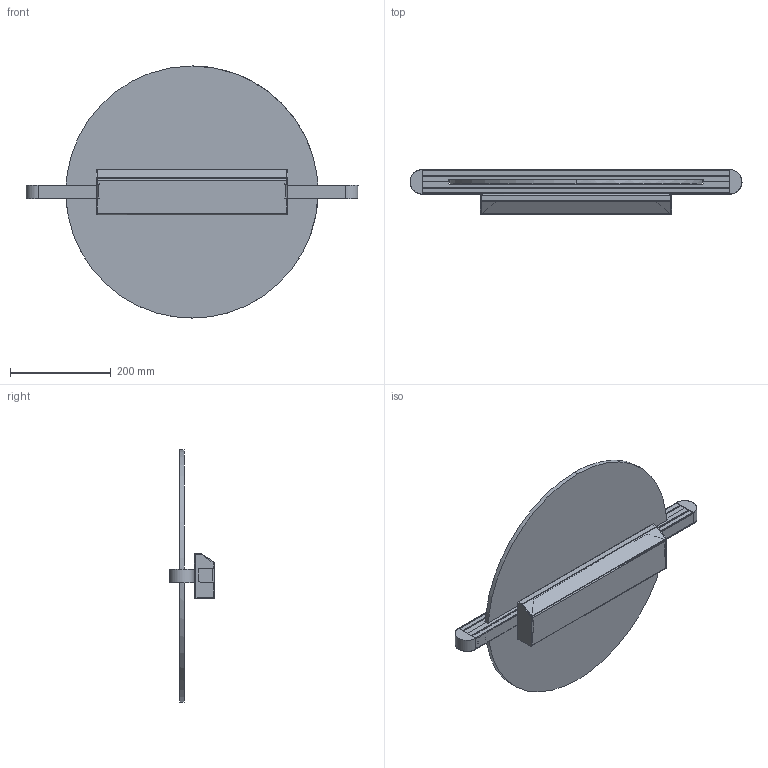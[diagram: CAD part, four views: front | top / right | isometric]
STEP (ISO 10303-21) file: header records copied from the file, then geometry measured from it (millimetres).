
FILE_DESCRIPTION(/* description */ (''),/* implementation_level */ '2;1');
FILE_NAME(/* name */ 'SE9292~1',/* time_stamp */ '2021-06-09T16:47:19+02:00',/* author */ (''),/* organization */ (''),/* preprocessor_version */ 'ST-DEVELOPER v16.5',/* originating_system */ '',/* authorisation */ '');
FILE_SCHEMA (('CONFIG_CONTROL_DESIGN'));
Length unit declared in the file: millimetre
Products named in the file (5): Document; PLA.005084; MET.005604; MET.005603
Assembly tree (7 placements, depth 3):
  Document
    Document
      PLA.005084  x4
      MET.005604
      MET.005603
Bounding box: 658.5 x 88.5 x 500 mm (x, y, z)
Volume: 2054514.5 mm3; surface area: 951240.4 mm2
Topology: 13 solids, 15 shells, 595 faces, 1693 edges, 1113 vertices
Faces by surface type: plane 324, cylinder 241, bspline 30
Entity records: 17816 total; most frequent: CARTESIAN_POINT 7441, ORIENTED_EDGE 3050, EDGE_CURVE 1541, B_SPLINE_CURVE_WITH_KNOTS 1024, VERTEX_POINT 1017, EDGE_LOOP 562, DIRECTION 545, ADVANCED_FACE 541
